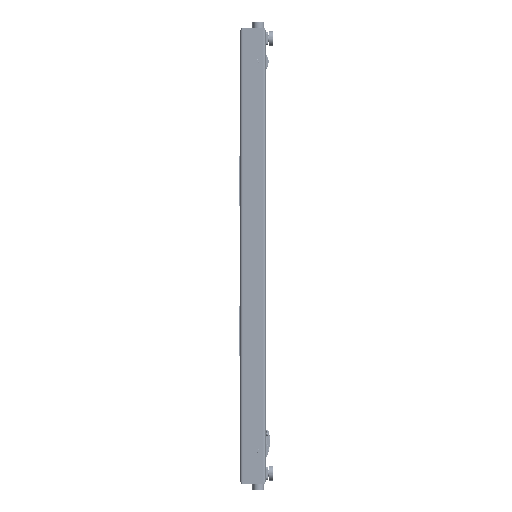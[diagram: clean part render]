
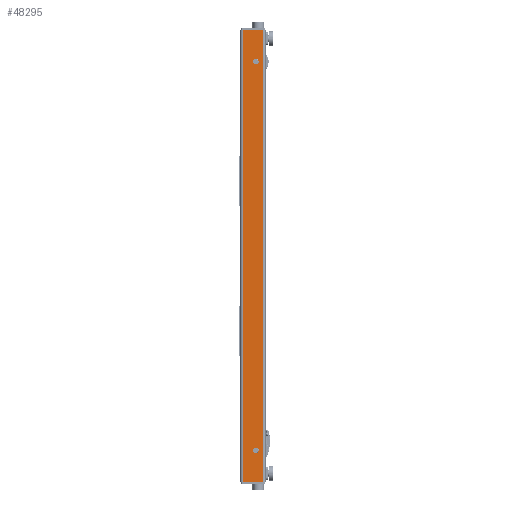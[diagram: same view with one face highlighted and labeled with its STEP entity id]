
A CAD part, left-side view. The second image highlights one B-rep face of the part: STEP entity #48295.
In plain terms, the highlighted planar face has unit normal (-1, 0, 0).
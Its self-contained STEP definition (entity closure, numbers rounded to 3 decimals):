
#5599 = DIRECTION ( 'NONE',  ( 0., -1., 0. ) ) ;
#6768 = CARTESIAN_POINT ( 'NONE',  ( 0., 59.08, 2554.275 ) ) ;
#8973 = EDGE_CURVE ( 'NONE', #20113, #78546, #143825, .T. ) ;
#12915 = VERTEX_POINT ( 'NONE', #196141 ) ;
#13152 = VERTEX_POINT ( 'NONE', #136566 ) ;
#13673 = VERTEX_POINT ( 'NONE', #141347 ) ;
#14563 = EDGE_CURVE ( 'NONE', #183868, #20113, #95979, .T. ) ;
#20113 = VERTEX_POINT ( 'NONE', #144168 ) ;
#20961 = DIRECTION ( 'NONE',  ( 1., 0., 0. ) ) ;
#21270 = CARTESIAN_POINT ( 'NONE',  ( 0., 139.7, 2746.375 ) ) ;
#22984 = EDGE_CURVE ( 'NONE', #155731, #13673, #192966, .T. ) ;
#25744 = DIRECTION ( 'NONE',  ( 1., 0., 0. ) ) ;
#25782 = DIRECTION ( 'NONE',  ( 0., -1., 0. ) ) ;
#27370 = CARTESIAN_POINT ( 'NONE',  ( 0., 12.7, 2746.375 ) ) ;
#27887 = FACE_OUTER_BOUND ( 'NONE', #47831, .T. ) ;
#31165 = EDGE_CURVE ( 'NONE', #183868, #158491, #150811, .T. ) ;
#34385 = AXIS2_PLACEMENT_3D ( 'NONE', #49141, #53160, #160017 ) ;
#36909 = CARTESIAN_POINT ( 'NONE',  ( 0., 12.7, 0. ) ) ;
#41943 = VECTOR ( 'NONE', #5599, 1000. ) ;
#43051 = DIRECTION ( 'NONE',  ( 0., 1., 0. ) ) ;
#47831 = EDGE_LOOP ( 'NONE', ( #52416, #54192, #164816, #49937 ) ) ;
#48295 = ADVANCED_FACE ( 'NONE', ( #119633, #167077, #27887 ), #91467, .F. ) ;
#49141 = CARTESIAN_POINT ( 'NONE',  ( 0., 59.08, 2554.275 ) ) ;
#49937 = ORIENTED_EDGE ( 'NONE', *, *, #14563, .T. ) ;
#52416 = ORIENTED_EDGE ( 'NONE', *, *, #8973, .T. ) ;
#53160 = DIRECTION ( 'NONE',  ( 1., 0., 0. ) ) ;
#53575 = DIRECTION ( 'NONE',  ( 0., 0., -1. ) ) ;
#54192 = ORIENTED_EDGE ( 'NONE', *, *, #57820, .F. ) ;
#56090 = CARTESIAN_POINT ( 'NONE',  ( 0., 59.08, 192.1 ) ) ;
#57820 = EDGE_CURVE ( 'NONE', #158491, #78546, #148162, .T. ) ;
#63821 = CARTESIAN_POINT ( 'NONE',  ( 0., 12.7, 0. ) ) ;
#64625 = AXIS2_PLACEMENT_3D ( 'NONE', #129693, #25744, #147823 ) ;
#73353 = DIRECTION ( 'NONE',  ( 1., 0., 0. ) ) ;
#75812 = EDGE_CURVE ( 'NONE', #13152, #12915, #182359, .T. ) ;
#76047 = AXIS2_PLACEMENT_3D ( 'NONE', #6768, #20961, #146966 ) ;
#78546 = VERTEX_POINT ( 'NONE', #63821 ) ;
#90355 = CIRCLE ( 'NONE', #64625, 17.526 ) ;
#90976 = ORIENTED_EDGE ( 'NONE', *, *, #22984, .T. ) ;
#91467 = PLANE ( 'NONE',  #190009 ) ;
#95979 = LINE ( 'NONE', #21270, #188382 ) ;
#96722 = EDGE_LOOP ( 'NONE', ( #90976, #130970 ) ) ;
#111682 = CIRCLE ( 'NONE', #34385, 17.526 ) ;
#112499 = EDGE_LOOP ( 'NONE', ( #122791, #184252 ) ) ;
#113930 = DIRECTION ( 'NONE',  ( 0., 0., -1. ) ) ;
#117472 = DIRECTION ( 'NONE',  ( 0., 0., -1. ) ) ;
#119633 = FACE_BOUND ( 'NONE', #96722, .T. ) ;
#122754 = VECTOR ( 'NONE', #25782, 1000. ) ;
#122791 = ORIENTED_EDGE ( 'NONE', *, *, #75812, .T. ) ;
#128450 = EDGE_CURVE ( 'NONE', #13673, #155731, #90355, .T. ) ;
#129693 = CARTESIAN_POINT ( 'NONE',  ( 0., 59.08, 192.1 ) ) ;
#130970 = ORIENTED_EDGE ( 'NONE', *, *, #128450, .T. ) ;
#133618 = DIRECTION ( 'NONE',  ( 1., 0., 0. ) ) ;
#136566 = CARTESIAN_POINT ( 'NONE',  ( 0., 76.606, 2554.275 ) ) ;
#141347 = CARTESIAN_POINT ( 'NONE',  ( 0., 59.08, 209.626 ) ) ;
#141415 = AXIS2_PLACEMENT_3D ( 'NONE', #56090, #133618, #117472 ) ;
#143825 = LINE ( 'NONE', #36909, #41943 ) ;
#144168 = CARTESIAN_POINT ( 'NONE',  ( 0., 139.7, 0. ) ) ;
#146966 = DIRECTION ( 'NONE',  ( 0., 1., 0. ) ) ;
#147823 = DIRECTION ( 'NONE',  ( 0., 0., -1. ) ) ;
#148162 = LINE ( 'NONE', #193572, #150342 ) ;
#150342 = VECTOR ( 'NONE', #113930, 1000. ) ;
#150811 = LINE ( 'NONE', #197222, #122754 ) ;
#155731 = VERTEX_POINT ( 'NONE', #179143 ) ;
#158491 = VERTEX_POINT ( 'NONE', #27370 ) ;
#160017 = DIRECTION ( 'NONE',  ( 0., 1., 0. ) ) ;
#164816 = ORIENTED_EDGE ( 'NONE', *, *, #31165, .F. ) ;
#167077 = FACE_BOUND ( 'NONE', #112499, .T. ) ;
#179143 = CARTESIAN_POINT ( 'NONE',  ( 0., 59.08, 174.574 ) ) ;
#180524 = EDGE_CURVE ( 'NONE', #12915, #13152, #111682, .T. ) ;
#182359 = CIRCLE ( 'NONE', #76047, 17.526 ) ;
#183868 = VERTEX_POINT ( 'NONE', #189070 ) ;
#184252 = ORIENTED_EDGE ( 'NONE', *, *, #180524, .T. ) ;
#188382 = VECTOR ( 'NONE', #53575, 1000. ) ;
#189070 = CARTESIAN_POINT ( 'NONE',  ( 0., 139.7, 2746.375 ) ) ;
#190009 = AXIS2_PLACEMENT_3D ( 'NONE', #198358, #73353, #43051 ) ;
#192966 = CIRCLE ( 'NONE', #141415, 17.526 ) ;
#193572 = CARTESIAN_POINT ( 'NONE',  ( 0., 12.7, 2746.375 ) ) ;
#196141 = CARTESIAN_POINT ( 'NONE',  ( 0., 41.554, 2554.275 ) ) ;
#197222 = CARTESIAN_POINT ( 'NONE',  ( 0., 12.7, 2746.375 ) ) ;
#198358 = CARTESIAN_POINT ( 'NONE',  ( 0., 12.7, 2746.375 ) ) ;
